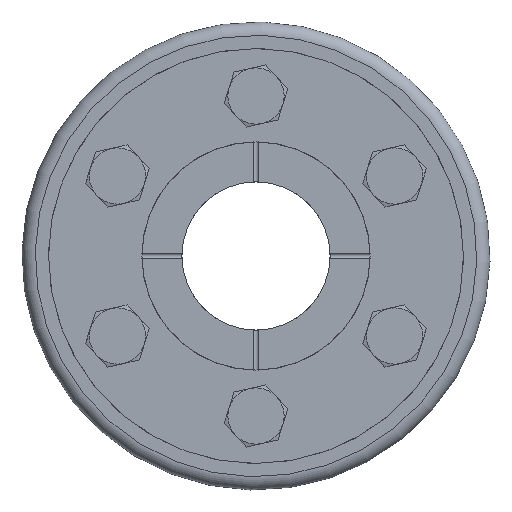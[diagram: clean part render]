
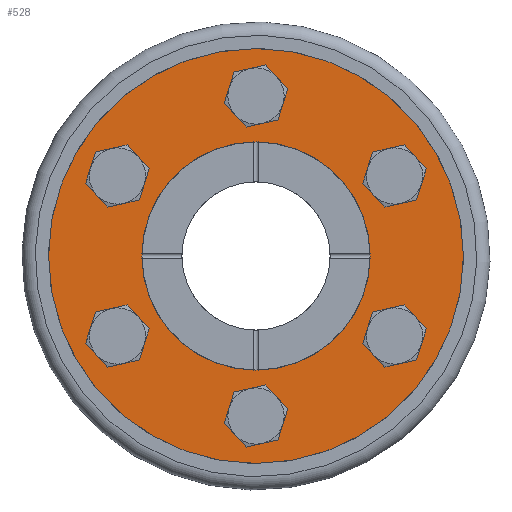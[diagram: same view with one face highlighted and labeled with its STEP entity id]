
A CAD part, front view. The second image highlights one B-rep face of the part: STEP entity #528.
In plain terms, the highlighted planar face has unit normal (0, -1, 0).
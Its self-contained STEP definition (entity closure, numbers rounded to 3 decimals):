
#528 = ADVANCED_FACE( '', ( #1038, #1039, #1040, #1041, #1042, #1043, #1044, #1045 ), #1046, .F. );
#1038 = FACE_OUTER_BOUND( '', #1578, .T. );
#1039 = FACE_BOUND( '', #1579, .T. );
#1040 = FACE_BOUND( '', #1580, .T. );
#1041 = FACE_BOUND( '', #1581, .T. );
#1042 = FACE_BOUND( '', #1582, .T. );
#1043 = FACE_BOUND( '', #1583, .T. );
#1044 = FACE_BOUND( '', #1584, .T. );
#1045 = FACE_BOUND( '', #1585, .T. );
#1046 = PLANE( '', #1586 );
#1578 = EDGE_LOOP( '', ( #2394 ) );
#1579 = EDGE_LOOP( '', ( #2395 ) );
#1580 = EDGE_LOOP( '', ( #2396 ) );
#1581 = EDGE_LOOP( '', ( #2397 ) );
#1582 = EDGE_LOOP( '', ( #2398 ) );
#1583 = EDGE_LOOP( '', ( #2399 ) );
#1584 = EDGE_LOOP( '', ( #2400 ) );
#1585 = EDGE_LOOP( '', ( #2401 ) );
#1586 = AXIS2_PLACEMENT_3D( '', #2402, #2403, #2404 );
#2394 = ORIENTED_EDGE( '', *, *, #3065, .T. );
#2395 = ORIENTED_EDGE( '', *, *, #2909, .F. );
#2396 = ORIENTED_EDGE( '', *, *, #3063, .F. );
#2397 = ORIENTED_EDGE( '', *, *, #3101, .F. );
#2398 = ORIENTED_EDGE( '', *, *, #3050, .F. );
#2399 = ORIENTED_EDGE( '', *, *, #2861, .F. );
#2400 = ORIENTED_EDGE( '', *, *, #3102, .F. );
#2401 = ORIENTED_EDGE( '', *, *, #3103, .F. );
#2402 = CARTESIAN_POINT( '', ( 0., 0., 70. ) );
#2403 = DIRECTION( '', ( 0., 1., 0. ) );
#2404 = DIRECTION( '', ( 1., 0., 0. ) );
#2861 = EDGE_CURVE( '', #3274, #3274, #3275, .T. );
#2909 = EDGE_CURVE( '', #3357, #3357, #3358, .T. );
#3050 = EDGE_CURVE( '', #3579, #3579, #3580, .T. );
#3063 = EDGE_CURVE( '', #3596, #3596, #3597, .T. );
#3065 = EDGE_CURVE( '', #3599, #3599, #3600, .T. );
#3101 = EDGE_CURVE( '', #3644, #3644, #3645, .T. );
#3102 = EDGE_CURVE( '', #3646, #3646, #3647, .T. );
#3103 = EDGE_CURVE( '', #3648, #3648, #3649, .T. );
#3274 = VERTEX_POINT( '', #3914 );
#3275 = CIRCLE( '', #3915, 7. );
#3357 = VERTEX_POINT( '', #4051 );
#3358 = CIRCLE( '', #4052, 7. );
#3579 = VERTEX_POINT( '', #4426 );
#3580 = CIRCLE( '', #4427, 7. );
#3596 = VERTEX_POINT( '', #4469 );
#3597 = CIRCLE( '', #4470, 7. );
#3599 = VERTEX_POINT( '', #4472 );
#3600 = CIRCLE( '', #4473, 70. );
#3644 = VERTEX_POINT( '', #4616 );
#3645 = CIRCLE( '', #4617, 7. );
#3646 = VERTEX_POINT( '', #4618 );
#3647 = CIRCLE( '', #4619, 7. );
#3648 = VERTEX_POINT( '', #4620 );
#3649 = CIRCLE( '', #4621, 38.5 );
#3914 = CARTESIAN_POINT( '', ( 50.265, 0., 20.938 ) );
#3915 = AXIS2_PLACEMENT_3D( '', #4825, #4826, #4827 );
#4051 = CARTESIAN_POINT( '', ( -43.265, 0., 33.062 ) );
#4052 = AXIS2_PLACEMENT_3D( '', #4901, #4902, #4903 );
#4426 = CARTESIAN_POINT( '', ( 43.265, 0., -33.062 ) );
#4427 = AXIS2_PLACEMENT_3D( '', #5105, #5106, #5107 );
#4469 = CARTESIAN_POINT( '', ( -50.265, 0., -20.938 ) );
#4470 = AXIS2_PLACEMENT_3D( '', #5122, #5123, #5124 );
#4472 = CARTESIAN_POINT( '', ( 0., 0., -70. ) );
#4473 = AXIS2_PLACEMENT_3D( '', #5125, #5126, #5127 );
#4616 = CARTESIAN_POINT( '', ( -7., 0., -54. ) );
#4617 = AXIS2_PLACEMENT_3D( '', #5151, #5152, #5153 );
#4618 = CARTESIAN_POINT( '', ( 7., 0., 54. ) );
#4619 = AXIS2_PLACEMENT_3D( '', #5154, #5155, #5156 );
#4620 = CARTESIAN_POINT( '', ( 0., 0., -38.5 ) );
#4621 = AXIS2_PLACEMENT_3D( '', #5157, #5158, #5159 );
#4825 = CARTESIAN_POINT( '', ( 46.765, 0., 27. ) );
#4826 = DIRECTION( '', ( 0., -1., 0. ) );
#4827 = DIRECTION( '', ( 0.5, 0., -0.866 ) );
#4901 = CARTESIAN_POINT( '', ( -46.765, 0., 27. ) );
#4902 = DIRECTION( '', ( 0., -1., 0. ) );
#4903 = DIRECTION( '', ( 0.5, 0., 0.866 ) );
#5105 = CARTESIAN_POINT( '', ( 46.765, 0., -27. ) );
#5106 = DIRECTION( '', ( 0., -1., 0. ) );
#5107 = DIRECTION( '', ( -0.5, 0., -0.866 ) );
#5122 = CARTESIAN_POINT( '', ( -46.765, 0., -27. ) );
#5123 = DIRECTION( '', ( 0., -1., 0. ) );
#5124 = DIRECTION( '', ( -0.5, 0., 0.866 ) );
#5125 = CARTESIAN_POINT( '', ( 0., 0., 0. ) );
#5126 = DIRECTION( '', ( 0., -1., 0. ) );
#5127 = DIRECTION( '', ( 0., 0., -1. ) );
#5151 = CARTESIAN_POINT( '', ( 0., 0., -54. ) );
#5152 = DIRECTION( '', ( 0., -1., 0. ) );
#5153 = DIRECTION( '', ( -1., 0., 0. ) );
#5154 = CARTESIAN_POINT( '', ( 0., 0., 54. ) );
#5155 = DIRECTION( '', ( 0., -1., 0. ) );
#5156 = DIRECTION( '', ( 1., 0., 0. ) );
#5157 = CARTESIAN_POINT( '', ( 0., 0., 0. ) );
#5158 = DIRECTION( '', ( 0., -1., 0. ) );
#5159 = DIRECTION( '', ( 0., 0., -1. ) );
